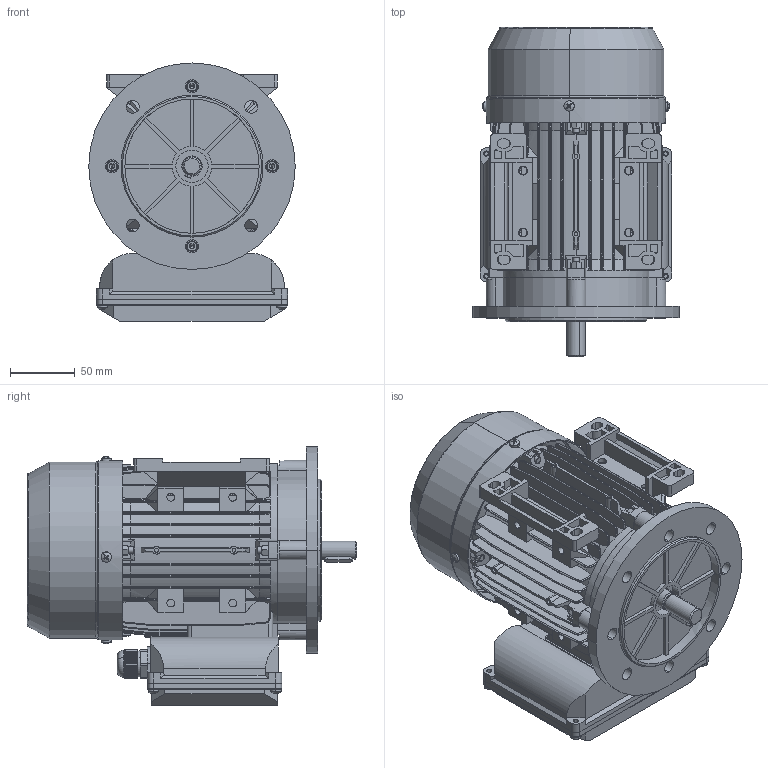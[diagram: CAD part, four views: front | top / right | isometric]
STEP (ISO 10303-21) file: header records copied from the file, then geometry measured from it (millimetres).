
FILE_DESCRIPTION (( 'STEP AP214' ), '1' );
FILE_NAME ('BDM0037.07C435.11.step', '2020-04-23T13:09:56', ( '' ), ( '' ), 'SwSTEP 2.0', 'SolidWorks 2019', '' );
FILE_SCHEMA (( 'AUTOMOTIVE_DESIGN' ));
Length unit declared in the file: millimetre
Products named in the file (1): BDM0037.07C435.11
Bounding box: 160 x 255 x 200 mm (x, y, z)
Volume: 876367.6 mm3; surface area: 568329.7 mm2
Topology: 35 solids, 35 shells, 3475 faces, 9100 edges, 5695 vertices
Faces by surface type: plane 1901, cylinder 989, cone 207, bspline 142, torus 118, sphere 118
Entity records: 121829 total; most frequent: CARTESIAN_POINT 37758, ORIENTED_EDGE 18044, DIRECTION 16597, EDGE_CURVE 9022, VERTEX_POINT 5695, AXIS2_PLACEMENT_3D 5658, VECTOR 5281, LINE 5281
